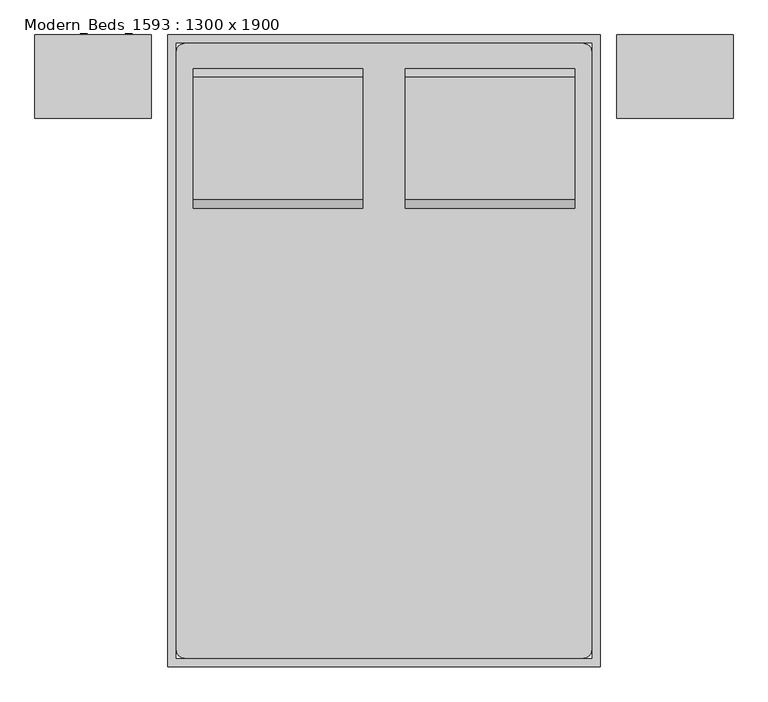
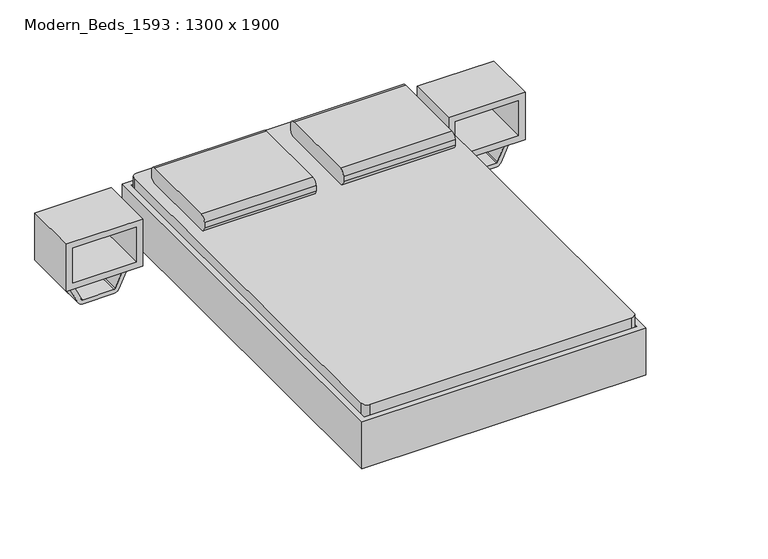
"""IFC4 building model written with IfcOpenShell, lengths in millimetres: furniture geometry, Modern_Beds_1593 : 1300 x 1900."""

from ifc_helpers import new_model, si_unit, point, frame, frame_2d, origin, place, context, project, spatial, polyline, circle_curve, trimmed, segment, composite_curve, outline, extrude, source, transform, mapped, element, save
from ifc_brep_helpers import plane_surface, cylinder_surface, revolved_surface, advanced_brep


def modern_beds_1593_1300_x_1900_af572c11(model_context):
    return source(origin(), model_context, "Body", "SolidModel", [
        advanced_brep(
        [(-285.1231784, 461.5704918, 177.8), (-285.1231784, 385.3704918, 177.8), (-285.1231784, 385.3704918, 196.85), (-285.1231784, 461.5704918, 196.85), (-234.3231784, 461.5704918, 177.8), (-234.3231784, 385.3704918, 177.8), (-222.1869899, 385.3704918, 196.85), (-222.1869899, 461.5704918, 196.85), (-158.2523099, 461.5704918, 14.6654962), (-158.2523099, 385.3704918, 14.6654962), (-140.9871466, 385.3704918, 22.716374), (-140.9871466, 461.5704918, 22.716374), (-135.2320921, 385.3704918, 0.0), (-135.2320921, 461.5704918, 0.0), (-135.2320921, 385.3704918, 19.05), (-135.2320921, 461.5704918, 19.05), (-56.6195862, 461.5704918, 0.0), (-56.6195862, 385.3704918, 0.0), (-56.6195862, 385.3704918, 19.05), (-56.6195862, 461.5704918, 19.05), (-43.9195862, 385.3704918, 3.4029547), (-43.9195862, 461.5704918, 3.4029547), (-53.4445862, 385.3704918, 19.9007387), (-53.4445862, 461.5704918, 19.9007387), (16.177459, 461.5704918, 38.1), (16.177459, 385.3704918, 38.1), (11.0730269, 385.3704918, 57.15), (11.0730269, 461.5704918, 57.15), (662.4518216, 461.5704918, 38.1), (662.4518216, 385.3704918, 38.1), (667.5562537, 385.3704918, 57.15), (667.5562537, 461.5704918, 57.15), (722.5488669, 461.5704918, 3.4029547), (722.5488669, 385.3704918, 3.4029547), (732.0738669, 385.3704918, 19.9007387), (732.0738669, 461.5704918, 19.9007387), (735.2488669, 385.3704918, 0.0), (735.2488669, 461.5704918, 0.0), (735.2488669, 385.3704918, 19.05), (735.2488669, 461.5704918, 19.05), (813.8613728, 461.5704918, 0.0), (813.8613728, 385.3704918, 0.0), (813.8613728, 385.3704918, 19.05), (813.8613728, 461.5704918, 19.05), (836.8815906, 385.3704918, 14.6654962), (836.8815906, 461.5704918, 14.6654962), (819.6164272, 385.3704918, 22.716374), (819.6164272, 461.5704918, 22.716374), (912.952459, 461.5704918, 177.8), (912.952459, 385.3704918, 177.8), (900.8162705, 385.3704918, 196.85), (900.8162705, 461.5704918, 196.85), (963.752459, 461.5704918, 177.8), (963.752459, 461.5704918, 196.85), (963.752459, 385.3704918, 196.85), (963.752459, 385.3704918, 177.8)],
        [
            (0, 1),
            (1, 2),
            (2, 3),
            (3, 0),
            (0, 4),
            (4, 5),
            (5, 1),
            (5, 6),
            (6, 2),
            (6, 7),
            (7, 3),
            (7, 4),
            (4, 8),
            (8, 9),
            (9, 5),
            (9, 10),
            (10, 6),
            (10, 11),
            (11, 7),
            (11, 8),
            (12, 9, circle_curve(frame((-135.2320921, 385.3704918, 25.4), z_axis=(0.0, 1.0, 0.0), x_axis=(-0.9063077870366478, 0.0, -0.4226182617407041)), 25.4)),
            (8, 13, circle_curve(frame((-135.2320921, 461.5704918, 25.4), z_axis=(0.0, -1.0, 0.0), x_axis=(-0.9063077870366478, 0.0, -0.4226182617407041)), 25.4)),
            (13, 12),
            (14, 10, circle_curve(frame((-135.2320921, 385.3704918, 25.4), z_axis=(0.0, 1.0, 0.0), x_axis=(-0.9063077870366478, 0.0, -0.4226182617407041)), 6.35)),
            (12, 14),
            (15, 11, circle_curve(frame((-135.2320921, 461.5704918, 25.4), z_axis=(0.0, 1.0, 0.0), x_axis=(-0.9063077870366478, 0.0, -0.4226182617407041)), 6.35)),
            (14, 15),
            (15, 13),
            (13, 16),
            (16, 17),
            (17, 12),
            (17, 18),
            (18, 14),
            (18, 19),
            (19, 15),
            (19, 16),
            (20, 17, circle_curve(frame((-56.6195862, 385.3704918, 25.4), z_axis=(0.0, 1.0, 0.0), x_axis=(0.0, 0.0, -1.0)), 25.4)),
            (16, 21, circle_curve(frame((-56.6195862, 461.5704918, 25.4), z_axis=(0.0, -1.0, 0.0), x_axis=(0.0, 0.0, -1.0)), 25.4)),
            (21, 20),
            (22, 18, circle_curve(frame((-56.6195862, 385.3704918, 25.4), z_axis=(0.0, 1.0, 0.0), x_axis=(0.0, 0.0, -1.0)), 6.35)),
            (20, 22),
            (23, 19, circle_curve(frame((-56.6195862, 461.5704918, 25.4), z_axis=(0.0, 1.0, 0.0), x_axis=(0.0, 0.0, -1.0)), 6.35)),
            (22, 23),
            (23, 21),
            (21, 24),
            (24, 25),
            (25, 20),
            (25, 26),
            (26, 22),
            (26, 27),
            (27, 23),
            (27, 24),
            (24, 28),
            (28, 29),
            (29, 25),
            (29, 30),
            (30, 26),
            (30, 31),
            (31, 27),
            (31, 28),
            (28, 32),
            (32, 33),
            (33, 29),
            (33, 34),
            (34, 30),
            (34, 35),
            (35, 31),
            (35, 32),
            (36, 33, circle_curve(frame((735.2488669, 385.3704918, 25.4), z_axis=(0.0, 1.0, 0.0), x_axis=(-0.5000000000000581, 0.0, -0.8660254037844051)), 25.4)),
            (32, 37, circle_curve(frame((735.2488669, 461.5704918, 25.4), z_axis=(0.0, -1.0, 0.0), x_axis=(-0.5000000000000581, 0.0, -0.8660254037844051)), 25.4)),
            (37, 36),
            (38, 34, circle_curve(frame((735.2488669, 385.3704918, 25.4), z_axis=(0.0, 1.0, 0.0), x_axis=(-0.5000000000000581, 0.0, -0.8660254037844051)), 6.35)),
            (36, 38),
            (39, 35, circle_curve(frame((735.2488669, 461.5704918, 25.4), z_axis=(0.0, 1.0, 0.0), x_axis=(-0.5000000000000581, 0.0, -0.8660254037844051)), 6.35)),
            (38, 39),
            (39, 37),
            (37, 40),
            (40, 41),
            (41, 36),
            (41, 42),
            (42, 38),
            (42, 43),
            (43, 39),
            (43, 40),
            (44, 41, circle_curve(frame((813.8613728, 385.3704918, 25.4), z_axis=(0.0, 1.0, 0.0), x_axis=(0.0, 0.0, -1.0)), 25.4)),
            (40, 45, circle_curve(frame((813.8613728, 461.5704918, 25.4), z_axis=(0.0, -1.0, 0.0), x_axis=(0.0, 0.0, -1.0)), 25.4)),
            (45, 44),
            (46, 42, circle_curve(frame((813.8613728, 385.3704918, 25.4), z_axis=(0.0, 1.0, 0.0), x_axis=(0.0, 0.0, -1.0)), 6.35)),
            (44, 46),
            (47, 43, circle_curve(frame((813.8613728, 461.5704918, 25.4), z_axis=(0.0, 1.0, 0.0), x_axis=(0.0, 0.0, -1.0)), 6.35)),
            (46, 47),
            (47, 45),
            (45, 48),
            (48, 49),
            (49, 44),
            (49, 50),
            (50, 46),
            (50, 51),
            (51, 47),
            (51, 48),
            (52, 53),
            (53, 54),
            (54, 55),
            (55, 52),
            (48, 52),
            (55, 49),
            (54, 50),
            (53, 51),
        ],
        [
            plane_surface(frame((-285.1231784, 715.5704918, -152.9490627), z_axis=(-1.0, 0.0, 0.0), x_axis=(0.0, 1.0, 0.0))),
            plane_surface(frame((-285.1231784, 461.5704918, 177.8), z_axis=(0.0, 0.0, -1.0), x_axis=(1.0, 0.0, 0.0))),
            plane_surface(frame((-285.1231784, 385.3704918, 177.8), z_axis=(0.0, -1.0, 0.0), x_axis=(1.0, 0.0, 0.0))),
            plane_surface(frame((-285.1231784, 385.3704918, 196.85), z_axis=(0.0, 0.0, 1.0), x_axis=(1.0, 0.0, 0.0))),
            plane_surface(frame((-285.1231784, 461.5704918, 196.85), z_axis=(0.0, 1.0, 0.0), x_axis=(1.0, 0.0, 0.0))),
            plane_surface(frame((-234.3231784, 461.5704918, 177.8), z_axis=(-0.9063077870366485, 0.0, -0.42261826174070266), x_axis=(0.42261826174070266, 0.0, -0.9063077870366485))),
            plane_surface(frame((-234.3231784, 385.3704918, 177.8), z_axis=(0.0, -1.0, 0.0), x_axis=(0.4226182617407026, 0.0, -0.9063077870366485))),
            plane_surface(frame((-222.1869899, 385.3704918, 196.85), z_axis=(0.9063077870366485, 0.0, 0.42261826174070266), x_axis=(0.42261826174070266, 0.0, -0.9063077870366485))),
            plane_surface(frame((-222.1869899, 461.5704918, 196.85), z_axis=(0.0, 1.0000000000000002, 0.0), x_axis=(0.4226182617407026, 0.0, -0.9063077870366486))),
            cylinder_surface(frame((-135.2320921, 715.5704918, 25.4), z_axis=(0.0, -1.0, 0.0), x_axis=(-0.9063077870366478, 0.0, -0.4226182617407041)), 25.4),
            plane_surface(frame((-135.2320921, 385.3704918, 25.4), z_axis=(0.0, -1.0, 0.0), x_axis=(-0.9063077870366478, 0.0, -0.4226182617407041))),
            revolved_surface(polyline([(-140.9871465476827, 385.3704918, 22.71637403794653), (-140.9871465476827, 461.5704918, 22.71637403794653)]), (-135.2320921, 715.5704918, 25.4), (0.0, -1.0, 0.0)),
            plane_surface(frame((-135.2320921, 461.5704918, 25.4), z_axis=(0.0, 1.0, 0.0), x_axis=(-0.9063077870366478, 0.0, -0.4226182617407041))),
            plane_surface(frame((-135.2320921, 461.5704918, 0.0), z_axis=(0.0, 0.0, -1.0), x_axis=(1.0, 0.0, 0.0))),
            plane_surface(frame((-135.2320921, 385.3704918, 0.0), z_axis=(0.0, -1.0, 0.0), x_axis=(1.0, 0.0, 0.0))),
            plane_surface(frame((-135.2320921, 385.3704918, 19.05), z_axis=(0.0, 0.0, 1.0), x_axis=(1.0, 0.0, 0.0))),
            plane_surface(frame((-135.2320921, 461.5704918, 19.05), z_axis=(0.0, 1.0, 0.0), x_axis=(1.0, 0.0, 0.0))),
            cylinder_surface(frame((-56.6195862, 715.5704918, 25.4), z_axis=(0.0, -1.0, 0.0), x_axis=(0.0, 0.0, -1.0)), 25.4),
            plane_surface(frame((-56.6195862, 385.3704918, 25.4), z_axis=(0.0, -1.0, 0.0), x_axis=(0.0, 0.0, -1.0))),
            revolved_surface(polyline([(-56.6195862, 385.3704918, 19.049999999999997), (-56.6195862, 461.5704918, 19.049999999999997)]), (-56.6195862, 715.5704918, 25.4), (0.0, -1.0, 0.0)),
            plane_surface(frame((-56.6195862, 461.5704918, 25.4), z_axis=(0.0, 1.0, 0.0), x_axis=(0.0, 0.0, -1.0))),
            plane_surface(frame((-43.9195862, 461.5704918, 3.4029547), z_axis=(0.4999999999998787, 0.0, -0.8660254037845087), x_axis=(0.8660254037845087, 0.0, 0.4999999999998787))),
            plane_surface(frame((-43.9195862, 385.3704918, 3.4029547), z_axis=(0.0, -1.0, 0.0), x_axis=(0.8660254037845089, 0.0, 0.4999999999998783))),
            plane_surface(frame((-53.4445862, 385.3704918, 19.9007387), z_axis=(-0.49999999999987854, 0.0, 0.8660254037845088), x_axis=(0.8660254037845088, 0.0, 0.49999999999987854))),
            plane_surface(frame((-53.4445862, 461.5704918, 19.9007387), z_axis=(0.0, 1.0, 0.0), x_axis=(0.8660254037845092, 0.0, 0.4999999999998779))),
            plane_surface(frame((16.177459, 461.5704918, 38.1), z_axis=(0.0, 0.0, -1.0), x_axis=(1.0, 0.0, 0.0))),
            plane_surface(frame((16.177459, 385.3704918, 38.1), z_axis=(0.0, -1.0, 0.0), x_axis=(1.0, 0.0, 0.0))),
            plane_surface(frame((11.0730269, 385.3704918, 57.15), z_axis=(0.0, 0.0, 1.0), x_axis=(1.0, 0.0, 0.0))),
            plane_surface(frame((11.0730269, 461.5704918, 57.15), z_axis=(0.0, 1.0, 0.0), x_axis=(1.0, 0.0, 0.0))),
            plane_surface(frame((662.4518216, 461.5704918, 38.1), z_axis=(-0.5000000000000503, 0.0, -0.8660254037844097), x_axis=(0.8660254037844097, 0.0, -0.5000000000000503))),
            plane_surface(frame((662.4518216, 385.3704918, 38.1), z_axis=(0.0, -1.0000000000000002, 0.0), x_axis=(0.8660254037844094, 0.0, -0.5000000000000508))),
            plane_surface(frame((667.5562537, 385.3704918, 57.15), z_axis=(0.5000000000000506, 0.0, 0.8660254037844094), x_axis=(0.8660254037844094, 0.0, -0.5000000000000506))),
            plane_surface(frame((667.5562537, 461.5704918, 57.15), z_axis=(0.0, 1.0, 0.0), x_axis=(0.8660254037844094, 0.0, -0.5000000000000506))),
            cylinder_surface(frame((735.2488669, 715.5704918, 25.4), z_axis=(0.0, -1.0, 0.0), x_axis=(-0.5000000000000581, 0.0, -0.8660254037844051)), 25.4),
            plane_surface(frame((735.2488669, 385.3704918, 25.4), z_axis=(0.0, -1.0000000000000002, 0.0), x_axis=(-0.5000000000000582, 0.0, -0.8660254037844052))),
            revolved_surface(polyline([(732.0738668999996, 385.3704918, 19.900738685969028), (732.0738668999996, 461.5704918, 19.900738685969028)]), (735.2488669, 715.5704918, 25.4), (0.0, -1.0, 0.0)),
            plane_surface(frame((735.2488669, 461.5704918, 25.4), z_axis=(0.0, 1.0000000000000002, 0.0), x_axis=(-0.5000000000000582, 0.0, -0.8660254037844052))),
            plane_surface(frame((735.2488669, 461.5704918, 0.0), z_axis=(0.0, 0.0, -1.0), x_axis=(1.0, 0.0, 0.0))),
            plane_surface(frame((735.2488669, 385.3704918, 0.0), z_axis=(0.0, -1.0, 0.0), x_axis=(1.0, 0.0, 0.0))),
            plane_surface(frame((735.2488669, 385.3704918, 19.05), z_axis=(0.0, 0.0, 1.0), x_axis=(1.0, 0.0, 0.0))),
            plane_surface(frame((735.2488669, 461.5704918, 19.05), z_axis=(0.0, 1.0, 0.0), x_axis=(1.0, 0.0, 0.0))),
            cylinder_surface(frame((813.8613728, 715.5704918, 25.4), z_axis=(0.0, -1.0, 0.0), x_axis=(0.0, 0.0, -1.0)), 25.4),
            plane_surface(frame((813.8613728, 385.3704918, 25.4), z_axis=(0.0, -1.0, 0.0), x_axis=(0.0, 0.0, -1.0))),
            revolved_surface(polyline([(813.8613728, 385.3704918, 19.049999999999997), (813.8613728, 461.5704918, 19.049999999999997)]), (813.8613728, 715.5704918, 25.4), (0.0, -1.0, 0.0)),
            plane_surface(frame((813.8613728, 461.5704918, 25.4), z_axis=(0.0, 1.0, 0.0), x_axis=(0.0, 0.0, -1.0))),
            plane_surface(frame((836.8815906, 461.5704918, 14.6654962), z_axis=(0.9063077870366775, 0.0, -0.4226182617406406), x_axis=(0.4226182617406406, 0.0, 0.9063077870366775))),
            plane_surface(frame((836.8815906, 385.3704918, 14.6654962), z_axis=(0.0, -1.0, 0.0), x_axis=(0.42261826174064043, 0.0, 0.9063077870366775))),
            plane_surface(frame((819.6164272, 385.3704918, 22.716374), z_axis=(-0.9063077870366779, 0.0, 0.4226182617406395), x_axis=(0.4226182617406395, 0.0, 0.9063077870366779))),
            plane_surface(frame((819.6164272, 461.5704918, 22.716374), z_axis=(0.0, 1.0, 0.0), x_axis=(0.42261826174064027, 0.0, 0.9063077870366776))),
            plane_surface(frame((963.752459, 715.5704918, -152.9490627), z_axis=(1.0, 0.0, 0.0), x_axis=(0.0, 1.0, 0.0))),
            plane_surface(frame((912.952459, 461.5704918, 177.8), z_axis=(0.0, 0.0, -1.0), x_axis=(1.0, 0.0, 0.0))),
            plane_surface(frame((912.952459, 385.3704918, 177.8), z_axis=(0.0, -1.0, 0.0), x_axis=(1.0, 0.0, 0.0))),
            plane_surface(frame((900.8162705, 385.3704918, 196.85), z_axis=(0.0, 0.0, 1.0), x_axis=(1.0, 0.0, 0.0))),
            plane_surface(frame((900.8162705, 461.5704918, 196.85), z_axis=(0.0, 1.0, 0.0), x_axis=(1.0, 0.0, 0.0))),
        ],
        [
            (0, [[1, 2, 3, 4]]),
            (1, [[-1, 5, 6, 7]]),
            (2, [[-2, -7, 8, 9]]),
            (3, [[-3, -9, 10, 11]]),
            (4, [[-4, -11, 12, -5]]),
            (5, [[-6, 13, 14, 15]]),
            (6, [[-8, -15, 16, 17]]),
            (7, [[-10, -17, 18, 19]]),
            (8, [[-12, -19, 20, -13]]),
            (9, [[21, -14, 22, 23]]),
            (10, [[24, -16, -21, 25]]),
            (11, [[26, -18, -24, 27]]),
            (12, [[-22, -20, -26, 28]]),
            (13, [[-23, 29, 30, 31]]),
            (14, [[-25, -31, 32, 33]]),
            (15, [[-27, -33, 34, 35]]),
            (16, [[-28, -35, 36, -29]]),
            (17, [[37, -30, 38, 39]]),
            (18, [[40, -32, -37, 41]]),
            (19, [[42, -34, -40, 43]]),
            (20, [[-38, -36, -42, 44]]),
            (21, [[-39, 45, 46, 47]]),
            (22, [[-41, -47, 48, 49]]),
            (23, [[-43, -49, 50, 51]]),
            (24, [[-44, -51, 52, -45]]),
            (25, [[-46, 53, 54, 55]]),
            (26, [[-48, -55, 56, 57]]),
            (27, [[-50, -57, 58, 59]]),
            (28, [[-52, -59, 60, -53]]),
            (29, [[-54, 61, 62, 63]]),
            (30, [[-56, -63, 64, 65]]),
            (31, [[-58, -65, 66, 67]]),
            (32, [[-60, -67, 68, -61]]),
            (33, [[69, -62, 70, 71]]),
            (34, [[72, -64, -69, 73]]),
            (35, [[74, -66, -72, 75]]),
            (36, [[-70, -68, -74, 76]]),
            (37, [[-71, 77, 78, 79]]),
            (38, [[-73, -79, 80, 81]]),
            (39, [[-75, -81, 82, 83]]),
            (40, [[-76, -83, 84, -77]]),
            (41, [[85, -78, 86, 87]]),
            (42, [[88, -80, -85, 89]]),
            (43, [[90, -82, -88, 91]]),
            (44, [[-86, -84, -90, 92]]),
            (45, [[-87, 93, 94, 95]]),
            (46, [[-89, -95, 96, 97]]),
            (47, [[-91, -97, 98, 99]]),
            (48, [[-92, -99, 100, -93]]),
            (49, [[101, 102, 103, 104]]),
            (50, [[-94, 105, -104, 106]]),
            (51, [[-96, -106, -103, 107]]),
            (52, [[-98, -107, -102, 108]]),
            (53, [[-100, -108, -101, -105]]),
        ],
    ),
        advanced_brep(
        [(-285.447541, -879.6295082, 196.85), (-285.447541, -879.6295082, 177.8), (-285.447541, -955.8295082, 177.8), (-285.447541, -955.8295082, 196.85), (-222.5113525, -879.6295082, 196.85), (-234.647541, -879.6295082, 177.8), (-234.647541, -955.8295082, 177.8), (-222.5113525, -955.8295082, 196.85), (-141.3115092, -879.6295082, 22.716374), (-158.5766725, -879.6295082, 14.6654962), (-158.5766725, -955.8295082, 14.6654962), (-141.3115092, -955.8295082, 22.716374), (-135.5564547, -879.6295082, 0.0), (-135.5564547, -879.6295082, 19.05), (-135.5564547, -955.8295082, 0.0), (-135.5564547, -955.8295082, 19.05), (-56.9439489, -879.6295082, 19.05), (-56.9439489, -879.6295082, 0.0), (-56.9439489, -955.8295082, 0.0), (-56.9439489, -955.8295082, 19.05), (-44.2439489, -879.6295082, 3.4029547), (-53.7689489, -879.6295082, 19.9007387), (-44.2439489, -955.8295082, 3.4029547), (-53.7689489, -955.8295082, 19.9007387), (10.7486643, -879.6295082, 57.15), (15.8530964, -879.6295082, 38.1), (15.8530964, -955.8295082, 38.1), (10.7486643, -955.8295082, 57.15), (667.5562537, -879.6295082, 57.15), (662.4518216, -879.6295082, 38.1), (662.4518216, -955.8295082, 38.1), (667.5562537, -955.8295082, 57.15), (732.0738669, -879.6295082, 19.9007387), (722.5488669, -879.6295082, 3.4029547), (722.5488669, -955.8295082, 3.4029547), (732.0738669, -955.8295082, 19.9007387), (735.2488669, -879.6295082, 0.0), (735.2488669, -879.6295082, 19.05), (735.2488669, -955.8295082, 0.0), (735.2488669, -955.8295082, 19.05), (813.8613728, -879.6295082, 19.05), (813.8613728, -879.6295082, 0.0), (813.8613728, -955.8295082, 0.0), (813.8613728, -955.8295082, 19.05), (836.8815906, -879.6295082, 14.6654962), (819.6164272, -879.6295082, 22.716374), (836.8815906, -955.8295082, 14.6654962), (819.6164272, -955.8295082, 22.716374), (900.8162705, -879.6295082, 196.85), (912.952459, -879.6295082, 177.8), (912.952459, -955.8295082, 177.8), (900.8162705, -955.8295082, 196.85), (963.752459, -879.6295082, 196.85), (963.752459, -955.8295082, 196.85), (963.752459, -955.8295082, 177.8), (963.752459, -879.6295082, 177.8)],
        [
            (0, 1),
            (1, 2),
            (2, 3),
            (3, 0),
            (0, 4),
            (4, 5),
            (5, 1),
            (5, 6),
            (6, 2),
            (6, 7),
            (7, 3),
            (7, 4),
            (4, 8),
            (8, 9),
            (9, 5),
            (9, 10),
            (10, 6),
            (10, 11),
            (11, 7),
            (11, 8),
            (12, 9, circle_curve(frame((-135.5564547, -879.6295082, 25.4), z_axis=(0.0, 1.0, 0.0), x_axis=(-0.9063077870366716, 0.0, -0.422618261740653)), 25.4)),
            (8, 13, circle_curve(frame((-135.5564547, -879.6295082, 25.4), z_axis=(0.0, -1.0, 0.0), x_axis=(-0.9063077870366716, 0.0, -0.422618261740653)), 6.35)),
            (13, 12),
            (14, 10, circle_curve(frame((-135.5564547, -955.8295082, 25.4), z_axis=(0.0, 1.0, 0.0), x_axis=(-0.9063077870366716, 0.0, -0.422618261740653)), 25.4)),
            (12, 14),
            (15, 11, circle_curve(frame((-135.5564547, -955.8295082, 25.4), z_axis=(0.0, 1.0, 0.0), x_axis=(-0.9063077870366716, 0.0, -0.422618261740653)), 6.35)),
            (14, 15),
            (15, 13),
            (13, 16),
            (16, 17),
            (17, 12),
            (17, 18),
            (18, 14),
            (18, 19),
            (19, 15),
            (19, 16),
            (20, 17, circle_curve(frame((-56.9439489, -879.6295082, 25.4), z_axis=(0.0, 1.0, 0.0), x_axis=(0.0, 0.0, -1.0)), 25.4)),
            (16, 21, circle_curve(frame((-56.9439489, -879.6295082, 25.4), z_axis=(0.0, -1.0, 0.0), x_axis=(0.0, 0.0, -1.0)), 6.35)),
            (21, 20),
            (22, 18, circle_curve(frame((-56.9439489, -955.8295082, 25.4), z_axis=(0.0, 1.0, 0.0), x_axis=(0.0, 0.0, -1.0)), 25.4)),
            (20, 22),
            (23, 19, circle_curve(frame((-56.9439489, -955.8295082, 25.4), z_axis=(0.0, 1.0, 0.0), x_axis=(0.0, 0.0, -1.0)), 6.35)),
            (22, 23),
            (23, 21),
            (21, 24),
            (24, 25),
            (25, 20),
            (25, 26),
            (26, 22),
            (26, 27),
            (27, 23),
            (27, 24),
            (24, 28),
            (28, 29),
            (29, 25),
            (29, 30),
            (30, 26),
            (30, 31),
            (31, 27),
            (31, 28),
            (28, 32),
            (32, 33),
            (33, 29),
            (33, 34),
            (34, 30),
            (34, 35),
            (35, 31),
            (35, 32),
            (36, 33, circle_curve(frame((735.2488669, -879.6295082, 25.4), z_axis=(0.0, 1.0, 0.0), x_axis=(-0.5000000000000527, 0.0, -0.8660254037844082)), 25.4)),
            (32, 37, circle_curve(frame((735.2488669, -879.6295082, 25.4), z_axis=(0.0, -1.0, 0.0), x_axis=(-0.5000000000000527, 0.0, -0.8660254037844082)), 6.35)),
            (37, 36),
            (38, 34, circle_curve(frame((735.2488669, -955.8295082, 25.4), z_axis=(0.0, 1.0, 0.0), x_axis=(-0.5000000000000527, 0.0, -0.8660254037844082)), 25.4)),
            (36, 38),
            (39, 35, circle_curve(frame((735.2488669, -955.8295082, 25.4), z_axis=(0.0, 1.0, 0.0), x_axis=(-0.5000000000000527, 0.0, -0.8660254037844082)), 6.35)),
            (38, 39),
            (39, 37),
            (37, 40),
            (40, 41),
            (41, 36),
            (41, 42),
            (42, 38),
            (42, 43),
            (43, 39),
            (43, 40),
            (44, 41, circle_curve(frame((813.8613728, -879.6295082, 25.4), z_axis=(0.0, 1.0, 0.0), x_axis=(0.0, 0.0, -1.0)), 25.4)),
            (40, 45, circle_curve(frame((813.8613728, -879.6295082, 25.4), z_axis=(0.0, -1.0, 0.0), x_axis=(0.0, 0.0, -1.0)), 6.35)),
            (45, 44),
            (46, 42, circle_curve(frame((813.8613728, -955.8295082, 25.4), z_axis=(0.0, 1.0, 0.0), x_axis=(0.0, 0.0, -1.0)), 25.4)),
            (44, 46),
            (47, 43, circle_curve(frame((813.8613728, -955.8295082, 25.4), z_axis=(0.0, 1.0, 0.0), x_axis=(0.0, 0.0, -1.0)), 6.35)),
            (46, 47),
            (47, 45),
            (45, 48),
            (48, 49),
            (49, 44),
            (49, 50),
            (50, 46),
            (50, 51),
            (51, 47),
            (51, 48),
            (52, 53),
            (53, 54),
            (54, 55),
            (55, 52),
            (48, 52),
            (55, 49),
            (54, 50),
            (53, 51),
        ],
        [
            plane_surface(frame((-285.447541, -1184.4295082, -127.5947323), z_axis=(-1.0, 0.0, 0.0), x_axis=(0.0, 1.0, 0.0))),
            plane_surface(frame((-285.447541, -879.6295082, 196.85), z_axis=(0.0, 1.0, 0.0), x_axis=(1.0, 0.0, 0.0))),
            plane_surface(frame((-285.447541, -879.6295082, 177.8), z_axis=(0.0, 0.0, -1.0), x_axis=(1.0, 0.0, 0.0))),
            plane_surface(frame((-285.447541, -955.8295082, 177.8), z_axis=(0.0, -1.0, 0.0), x_axis=(1.0, 0.0, 0.0))),
            plane_surface(frame((-285.447541, -955.8295082, 196.85), z_axis=(0.0, 0.0, 1.0), x_axis=(1.0, 0.0, 0.0))),
            plane_surface(frame((-222.5113525, -879.6295082, 196.85), z_axis=(0.0, 1.0, 0.0), x_axis=(0.4226182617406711, 0.0, -0.9063077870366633))),
            plane_surface(frame((-234.647541, -879.6295082, 177.8), z_axis=(-0.9063077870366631, 0.0, -0.4226182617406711), x_axis=(0.4226182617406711, 0.0, -0.9063077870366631))),
            plane_surface(frame((-234.647541, -955.8295082, 177.8), z_axis=(0.0, -1.0, 0.0), x_axis=(0.4226182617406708, 0.0, -0.9063077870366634))),
            plane_surface(frame((-222.5113525, -955.8295082, 196.85), z_axis=(0.9063077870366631, 0.0, 0.4226182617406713), x_axis=(0.4226182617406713, 0.0, -0.9063077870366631))),
            plane_surface(frame((-135.5564547, -879.6295082, 25.4), z_axis=(0.0, 1.0000000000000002, 0.0), x_axis=(-0.9063077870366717, 0.0, -0.42261826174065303))),
            cylinder_surface(frame((-135.5564547, -1184.4295082, 25.4), z_axis=(0.0, -1.0, 0.0), x_axis=(-0.9063077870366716, 0.0, -0.422618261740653)), 25.4),
            plane_surface(frame((-135.5564547, -955.8295082, 25.4), z_axis=(0.0, -1.0000000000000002, 0.0), x_axis=(-0.9063077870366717, 0.0, -0.42261826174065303))),
            revolved_surface(polyline([(-141.31150914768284, -955.8295082, 22.716374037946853), (-141.31150914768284, -879.6295082, 22.716374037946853)]), (-135.5564547, -1184.4295082, 25.4), (0.0, -1.0, 0.0)),
            plane_surface(frame((-135.5564547, -879.6295082, 19.05), z_axis=(0.0, 1.0, 0.0), x_axis=(1.0, 0.0, 0.0))),
            plane_surface(frame((-135.5564547, -879.6295082, 0.0), z_axis=(0.0, 0.0, -1.0), x_axis=(1.0, 0.0, 0.0))),
            plane_surface(frame((-135.5564547, -955.8295082, 0.0), z_axis=(0.0, -1.0, 0.0), x_axis=(1.0, 0.0, 0.0))),
            plane_surface(frame((-135.5564547, -955.8295082, 19.05), z_axis=(0.0, 0.0, 1.0), x_axis=(1.0, 0.0, 0.0))),
            plane_surface(frame((-56.9439489, -879.6295082, 25.4), z_axis=(0.0, 1.0, 0.0), x_axis=(0.0, 0.0, -1.0))),
            cylinder_surface(frame((-56.9439489, -1184.4295082, 25.4), z_axis=(0.0, -1.0, 0.0), x_axis=(0.0, 0.0, -1.0)), 25.4),
            plane_surface(frame((-56.9439489, -955.8295082, 25.4), z_axis=(0.0, -1.0, 0.0), x_axis=(0.0, 0.0, -1.0))),
            revolved_surface(polyline([(-56.9439489, -955.8295082, 19.049999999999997), (-56.9439489, -879.6295082, 19.049999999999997)]), (-56.9439489, -1184.4295082, 25.4), (0.0, -1.0, 0.0)),
            plane_surface(frame((-53.7689489, -879.6295082, 19.9007387), z_axis=(0.0, 1.0, 0.0), x_axis=(0.8660254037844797, 0.0, 0.4999999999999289))),
            plane_surface(frame((-44.2439489, -879.6295082, 3.4029547), z_axis=(0.49999999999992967, 0.0, -0.8660254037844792), x_axis=(0.8660254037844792, 0.0, 0.49999999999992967))),
            plane_surface(frame((-44.2439489, -955.8295082, 3.4029547), z_axis=(0.0, -1.0, 0.0), x_axis=(0.8660254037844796, 0.0, 0.4999999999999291))),
            plane_surface(frame((-53.7689489, -955.8295082, 19.9007387), z_axis=(-0.4999999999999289, 0.0, 0.8660254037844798), x_axis=(0.8660254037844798, 0.0, 0.4999999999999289))),
            plane_surface(frame((10.7486643, -879.6295082, 57.15), z_axis=(0.0, 1.0, 0.0), x_axis=(1.0, 0.0, 0.0))),
            plane_surface(frame((15.8530964, -879.6295082, 38.1), z_axis=(0.0, 0.0, -1.0), x_axis=(1.0, 0.0, 0.0))),
            plane_surface(frame((15.8530964, -955.8295082, 38.1), z_axis=(0.0, -1.0, 0.0), x_axis=(1.0, 0.0, 0.0))),
            plane_surface(frame((10.7486643, -955.8295082, 57.15), z_axis=(0.0, 0.0, 1.0), x_axis=(1.0, 0.0, 0.0))),
            plane_surface(frame((667.5562537, -879.6295082, 57.15), z_axis=(0.0, 1.0, 0.0), x_axis=(0.86602540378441, 0.0, -0.5000000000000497))),
            plane_surface(frame((662.4518216, -879.6295082, 38.1), z_axis=(-0.5000000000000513, 0.0, -0.8660254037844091), x_axis=(0.8660254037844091, 0.0, -0.5000000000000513))),
            plane_surface(frame((662.4518216, -955.8295082, 38.1), z_axis=(0.0, -1.0000000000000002, 0.0), x_axis=(0.866025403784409, 0.0, -0.5000000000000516))),
            plane_surface(frame((667.5562537, -955.8295082, 57.15), z_axis=(0.5000000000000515, 0.0, 0.866025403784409), x_axis=(0.866025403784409, 0.0, -0.5000000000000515))),
            plane_surface(frame((735.2488669, -879.6295082, 25.4), z_axis=(0.0, 1.0, 0.0), x_axis=(-0.5000000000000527, 0.0, -0.8660254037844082))),
            cylinder_surface(frame((735.2488669, -1184.4295082, 25.4), z_axis=(0.0, -1.0, 0.0), x_axis=(-0.5000000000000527, 0.0, -0.8660254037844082)), 25.4),
            plane_surface(frame((735.2488669, -955.8295082, 25.4), z_axis=(0.0, -1.0, 0.0), x_axis=(-0.5000000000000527, 0.0, -0.8660254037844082))),
            revolved_surface(polyline([(732.0738668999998, -955.8295082, 19.900738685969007), (732.0738668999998, -879.6295082, 19.900738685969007)]), (735.2488669, -1184.4295082, 25.4), (0.0, -1.0, 0.0)),
            plane_surface(frame((735.2488669, -879.6295082, 19.05), z_axis=(0.0, 1.0, 0.0), x_axis=(1.0, 0.0, 0.0))),
            plane_surface(frame((735.2488669, -879.6295082, 0.0), z_axis=(0.0, 0.0, -1.0), x_axis=(1.0, 0.0, 0.0))),
            plane_surface(frame((735.2488669, -955.8295082, 0.0), z_axis=(0.0, -1.0, 0.0), x_axis=(1.0, 0.0, 0.0))),
            plane_surface(frame((735.2488669, -955.8295082, 19.05), z_axis=(0.0, 0.0, 1.0), x_axis=(1.0, 0.0, 0.0))),
            plane_surface(frame((813.8613728, -879.6295082, 25.4), z_axis=(0.0, 1.0, 0.0), x_axis=(0.0, 0.0, -1.0))),
            cylinder_surface(frame((813.8613728, -1184.4295082, 25.4), z_axis=(0.0, -1.0, 0.0), x_axis=(0.0, 0.0, -1.0)), 25.4),
            plane_surface(frame((813.8613728, -955.8295082, 25.4), z_axis=(0.0, -1.0, 0.0), x_axis=(0.0, 0.0, -1.0))),
            revolved_surface(polyline([(813.8613728, -955.8295082, 19.049999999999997), (813.8613728, -879.6295082, 19.049999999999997)]), (813.8613728, -1184.4295082, 25.4), (0.0, -1.0, 0.0)),
            plane_surface(frame((819.6164272, -879.6295082, 22.716374), z_axis=(0.0, 1.0, 0.0), x_axis=(0.42261826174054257, 0.0, 0.9063077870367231))),
            plane_surface(frame((836.8815906, -879.6295082, 14.6654962), z_axis=(0.9063077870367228, 0.0, -0.42261826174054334), x_axis=(0.42261826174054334, 0.0, 0.9063077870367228))),
            plane_surface(frame((836.8815906, -955.8295082, 14.6654962), z_axis=(0.0, -1.0000000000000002, 0.0), x_axis=(0.42261826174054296, 0.0, 0.906307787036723))),
            plane_surface(frame((819.6164272, -955.8295082, 22.716374), z_axis=(-0.9063077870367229, 0.0, 0.42261826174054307), x_axis=(0.42261826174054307, 0.0, 0.9063077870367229))),
            plane_surface(frame((963.752459, -1184.4295082, -127.5947323), z_axis=(1.0, 0.0, 0.0), x_axis=(0.0, 1.0, 0.0))),
            plane_surface(frame((900.8162705, -879.6295082, 196.85), z_axis=(0.0, 1.0, 0.0), x_axis=(1.0, 0.0, 0.0))),
            plane_surface(frame((912.952459, -879.6295082, 177.8), z_axis=(0.0, 0.0, -1.0), x_axis=(1.0, 0.0, 0.0))),
            plane_surface(frame((912.952459, -955.8295082, 177.8), z_axis=(0.0, -1.0, 0.0), x_axis=(1.0, 0.0, 0.0))),
            plane_surface(frame((900.8162705, -955.8295082, 196.85), z_axis=(0.0, 0.0, 1.0), x_axis=(1.0, 0.0, 0.0))),
        ],
        [
            (0, [[1, 2, 3, 4]]),
            (1, [[-1, 5, 6, 7]]),
            (2, [[-2, -7, 8, 9]]),
            (3, [[-3, -9, 10, 11]]),
            (4, [[-4, -11, 12, -5]]),
            (5, [[-6, 13, 14, 15]]),
            (6, [[-8, -15, 16, 17]]),
            (7, [[-10, -17, 18, 19]]),
            (8, [[-12, -19, 20, -13]]),
            (9, [[21, -14, 22, 23]]),
            (10, [[24, -16, -21, 25]]),
            (11, [[26, -18, -24, 27]]),
            (12, [[-22, -20, -26, 28]]),
            (13, [[-23, 29, 30, 31]]),
            (14, [[-25, -31, 32, 33]]),
            (15, [[-27, -33, 34, 35]]),
            (16, [[-28, -35, 36, -29]]),
            (17, [[37, -30, 38, 39]]),
            (18, [[40, -32, -37, 41]]),
            (19, [[42, -34, -40, 43]]),
            (20, [[-38, -36, -42, 44]]),
            (21, [[-39, 45, 46, 47]]),
            (22, [[-41, -47, 48, 49]]),
            (23, [[-43, -49, 50, 51]]),
            (24, [[-44, -51, 52, -45]]),
            (25, [[-46, 53, 54, 55]]),
            (26, [[-48, -55, 56, 57]]),
            (27, [[-50, -57, 58, 59]]),
            (28, [[-52, -59, 60, -53]]),
            (29, [[-54, 61, 62, 63]]),
            (30, [[-56, -63, 64, 65]]),
            (31, [[-58, -65, 66, 67]]),
            (32, [[-60, -67, 68, -61]]),
            (33, [[69, -62, 70, 71]]),
            (34, [[72, -64, -69, 73]]),
            (35, [[74, -66, -72, 75]]),
            (36, [[-70, -68, -74, 76]]),
            (37, [[-71, 77, 78, 79]]),
            (38, [[-73, -79, 80, 81]]),
            (39, [[-75, -81, 82, 83]]),
            (40, [[-76, -83, 84, -77]]),
            (41, [[85, -78, 86, 87]]),
            (42, [[88, -80, -85, 89]]),
            (43, [[90, -82, -88, 91]]),
            (44, [[-86, -84, -90, 92]]),
            (45, [[-87, 93, 94, 95]]),
            (46, [[-89, -95, 96, 97]]),
            (47, [[-91, -97, 98, 99]]),
            (48, [[-92, -99, 100, -93]]),
            (49, [[101, 102, 103, 104]]),
            (50, [[-94, 105, -104, 106]]),
            (51, [[-96, -106, -103, 107]]),
            (52, [[-98, -107, -102, 108]]),
            (53, [[-100, -108, -101, -105]]),
        ],
    ),
        extrude(outline(composite_curve([segment(polyline([(588.5704918, 406.4), (220.2704918, 406.4)]), True, "CONTINUOUS"), segment(trimmed(circle_curve(frame_2d((220.2704918, 431.8)), 25.4), [point((220.2704918, 406.4))], [point((194.8704918, 431.8))], False, "CARTESIAN"), True, "CONTINUOUS"), segment(polyline([(194.8704918, 431.8), (194.8704918, 457.2)]), True, "CONTINUOUS"), segment(trimmed(circle_curve(frame_2d((220.2704918, 457.2)), 25.4), [point((194.8704918, 457.2))], [point((220.2704918, 482.6))], False, "CARTESIAN"), True, "CONTINUOUS"), segment(polyline([(220.2704918, 482.6), (588.5704918, 482.6)]), True, "CONTINUOUS"), segment(trimmed(circle_curve(frame_2d((588.5704918, 457.2)), 25.4), [point((588.5704918, 482.6))], [point((613.9704918, 457.2))], False, "CARTESIAN"), True, "CONTINUOUS"), segment(polyline([(613.9704918, 457.2), (613.9704918, 431.8)]), True, "CONTINUOUS"), segment(trimmed(circle_curve(frame_2d((588.5704918, 431.8)), 25.4), [point((613.9704918, 431.8))], [point((588.5704918, 406.4))], False, "CARTESIAN"), True, "CONTINUOUS")], self_intersect=False)), frame((402.652459, 0.0, 0.0), z_axis=(1.0, 0.0, 0.0), x_axis=(0.0, 1.0, 0.0)), (0.0, 0.0, 1.0), 510.3),
        extrude(outline(composite_curve([segment(polyline([(588.5704918, 406.4), (220.2704918, 406.4)]), True, "CONTINUOUS"), segment(trimmed(circle_curve(frame_2d((220.2704918, 431.8)), 25.4), [point((220.2704918, 406.4))], [point((194.8704918, 431.8))], False, "CARTESIAN"), True, "CONTINUOUS"), segment(polyline([(194.8704918, 431.8), (194.8704918, 457.2)]), True, "CONTINUOUS"), segment(trimmed(circle_curve(frame_2d((220.2704918, 457.2)), 25.4), [point((194.8704918, 457.2))], [point((220.2704918, 482.6))], False, "CARTESIAN"), True, "CONTINUOUS"), segment(polyline([(220.2704918, 482.6), (588.5704918, 482.6)]), True, "CONTINUOUS"), segment(trimmed(circle_curve(frame_2d((588.5704918, 457.2)), 25.4), [point((588.5704918, 482.6))], [point((613.9704918, 457.2))], False, "CARTESIAN"), True, "CONTINUOUS"), segment(polyline([(613.9704918, 457.2), (613.9704918, 431.8)]), True, "CONTINUOUS"), segment(trimmed(circle_curve(frame_2d((588.5704918, 431.8)), 25.4), [point((613.9704918, 431.8))], [point((588.5704918, 406.4))], False, "CARTESIAN"), True, "CONTINUOUS")], self_intersect=False)), frame((-234.647541, 0.0, 0.0), z_axis=(1.0, 0.0, 0.0), x_axis=(0.0, 1.0, 0.0)), (0.0, 0.0, 1.0), 510.3),
        extrude(outline(composite_curve([segment(polyline([(-260.047541, 690.1704918), (938.352459, 690.1704918)]), True, "CONTINUOUS"), segment(trimmed(circle_curve(frame_2d((938.352459, 664.7704918)), 25.4), [point((938.352459, 690.1704918))], [point((963.752459, 664.7704918))], False, "CARTESIAN"), True, "CONTINUOUS"), segment(polyline([(963.752459, 664.7704918), (963.752459, -1133.6295082)]), True, "CONTINUOUS"), segment(trimmed(circle_curve(frame_2d((938.352459, -1133.6295082)), 25.4), [point((963.752459, -1133.6295082))], [point((938.352459, -1159.0295082))], False, "CARTESIAN"), True, "CONTINUOUS"), segment(polyline([(938.352459, -1159.0295082), (-260.047541, -1159.0295082)]), True, "CONTINUOUS"), segment(trimmed(circle_curve(frame_2d((-260.047541, -1133.6295082)), 25.4), [point((-260.047541, -1159.0295082))], [point((-285.447541, -1133.6295082))], False, "CARTESIAN"), True, "CONTINUOUS"), segment(polyline([(-285.447541, -1133.6295082), (-285.447541, 664.7704918)]), True, "CONTINUOUS"), segment(trimmed(circle_curve(frame_2d((-260.047541, 664.7704918)), 25.4), [point((-285.447541, 664.7704918))], [point((-260.047541, 690.1704918))], False, "CARTESIAN"), True, "CONTINUOUS")], self_intersect=False)), frame((0.0, 0.0, 203.2), z_axis=(0.0, 0.0, 1.0), x_axis=(1.0, 0.0, 0.0)), (0.0, 0.0, 1.0), 203.2),
        extrude(outline(composite_curve([segment(polyline([(14.6654962, -441.7035367), (116.2774654, -394.3210972), (127.0, -394.3210972), (127.0, -414.3210972), (118.4634671, -414.3210972), (22.716374, -458.9687)]), True, "CONTINUOUS"), segment(trimmed(circle_curve(frame_2d((25.4, -464.7237544)), 6.35), [point((22.716374, -458.9687))], [point((19.05, -464.7237544))], True, "CARTESIAN"), True, "CONTINUOUS"), segment(polyline([(19.05, -464.7237544), (19.05, -606.9713275)]), True, "CONTINUOUS"), segment(trimmed(circle_curve(frame_2d((25.4, -606.9713275)), 6.35), [point((19.05, -606.9713275))], [point((22.716374, -612.726382))], True, "CARTESIAN"), True, "CONTINUOUS"), segment(polyline([(22.716374, -612.726382), (118.4634671, -657.3739847), (127.0, -657.3739847), (127.0, -677.3739847), (116.2774654, -677.3739847), (14.6654962, -629.9915453)]), True, "CONTINUOUS"), segment(trimmed(circle_curve(frame_2d((25.4, -606.9713275)), 25.4), [point((14.6654962, -629.9915453))], [point((0.0, -606.9713275))], False, "CARTESIAN"), True, "CONTINUOUS"), segment(polyline([(0.0, -606.9713275), (0.0, -464.7237544)]), True, "CONTINUOUS"), segment(trimmed(circle_curve(frame_2d((25.4, -464.7237544)), 25.4), [point((0.0, -464.7237544))], [point((14.6654962, -441.7035367))], False, "CARTESIAN"), True, "CONTINUOUS")], self_intersect=False)), frame((0.0, 515.5704918, 0.0), z_axis=(0.0, 1.0, 0.0), x_axis=(0.0, 0.0, 1.0)), (0.0, 0.0, 1.0), 150.0),
        extrude(outline(polyline([(127.0, -360.847541), (355.6, -360.847541), (355.6, -710.847541), (127.0, -710.847541), (127.0, -360.847541)]), holes=[polyline([(325.6, -680.847541), (325.6, -390.847541), (157.0, -390.847541), (157.0, -680.847541), (325.6, -680.847541)])]), frame((0.0, 465.5704918, 0.0), z_axis=(0.0, 1.0, 0.0), x_axis=(0.0, 0.0, 1.0)), (0.0, 0.0, 1.0), 250.0),
        extrude(outline(composite_curve([segment(polyline([(14.6654962, 1308.2964633), (116.2774654, 1355.6789028), (127.0, 1355.6789028), (127.0, 1335.6789028), (118.4634671, 1335.6789028), (22.716374, 1291.0313)]), True, "CONTINUOUS"), segment(trimmed(circle_curve(frame_2d((25.4, 1285.2762456)), 6.35), [point((22.716374, 1291.0313))], [point((19.05, 1285.2762456))], True, "CARTESIAN"), True, "CONTINUOUS"), segment(polyline([(19.05, 1285.2762456), (19.05, 1143.0286725)]), True, "CONTINUOUS"), segment(trimmed(circle_curve(frame_2d((25.4, 1143.0286725)), 6.35), [point((19.05, 1143.0286725))], [point((22.716374, 1137.273618))], True, "CARTESIAN"), True, "CONTINUOUS"), segment(polyline([(22.716374, 1137.273618), (118.4634671, 1092.6260153), (127.0, 1092.6260153), (127.0, 1072.6260153), (116.2774654, 1072.6260153), (14.6654962, 1120.0084547)]), True, "CONTINUOUS"), segment(trimmed(circle_curve(frame_2d((25.4, 1143.0286725)), 25.4), [point((14.6654962, 1120.0084547))], [point((0.0, 1143.0286725))], False, "CARTESIAN"), True, "CONTINUOUS"), segment(polyline([(0.0, 1143.0286725), (0.0, 1285.2762456)]), True, "CONTINUOUS"), segment(trimmed(circle_curve(frame_2d((25.4, 1285.2762456)), 25.4), [point((0.0, 1285.2762456))], [point((14.6654962, 1308.2964633))], False, "CARTESIAN"), True, "CONTINUOUS")], self_intersect=False)), frame((0.0, 515.5704918, 0.0), z_axis=(0.0, 1.0, 0.0), x_axis=(0.0, 0.0, 1.0)), (0.0, 0.0, 1.0), 150.0),
        extrude(outline(polyline([(127.0, 1039.152459), (127.0, 1389.152459), (355.6, 1389.152459), (355.6, 1039.152459), (127.0, 1039.152459)]), holes=[polyline([(325.6, 1359.152459), (157.0, 1359.152459), (157.0, 1069.152459), (325.6, 1069.152459), (325.6, 1359.152459)])]), frame((0.0, 465.5704918, 0.0), z_axis=(0.0, 1.0, 0.0), x_axis=(0.0, 0.0, 1.0)), (0.0, 0.0, 1.0), 250.0),
        extrude(outline(polyline([(989.152459, 715.5704918), (989.152459, -1184.4295082), (-310.847541, -1184.4295082), (-310.847541, 715.5704918), (989.152459, 715.5704918)]), holes=[polyline([(963.752459, 690.1704918), (-285.447541, 690.1704918), (-285.447541, -1159.0295082), (963.752459, -1159.0295082), (963.752459, 690.1704918)])]), frame((0.0, 0.0, 127.0), z_axis=(0.0, 0.0, 1.0), x_axis=(1.0, 0.0, 0.0)), (0.0, 0.0, 1.0), 228.6),
    ])


if __name__ == "__main__":
    model = new_model("IFC4")
    model_context = context("Model", 3, world=origin())
    ifc_project = project(units=[si_unit("LENGTHUNIT", "METRE", prefix="MILLI")], contexts=[model_context])
    site = spatial("IfcSite", under=ifc_project)
    building = spatial("IfcBuilding", under=site)
    placement = place(None, origin())
    modern_beds_1593_1300_x_1900_shape = modern_beds_1593_1300_x_1900_af572c11(model_context)
    element("IfcFurniture", 1, ObjectType="Modern_Beds_1593 : 1300 x 1900", at=placement, inside=building, context=model_context, shape_type="MappedRepresentation", body=[
        mapped(modern_beds_1593_1300_x_1900_shape, transform((0.0, 0.0, 0.0), x_axis=(1.0, 0.0, 0.0), y_axis=(0.0, 1.0, 0.0), z_axis=(0.0, 0.0, 1.0))),
    ])
    save(model, "model.ifc")
